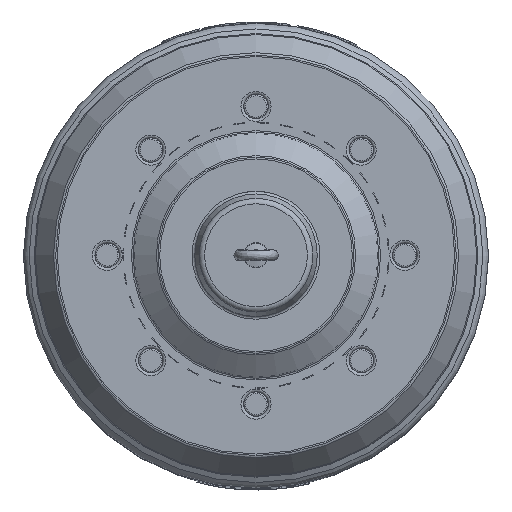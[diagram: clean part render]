
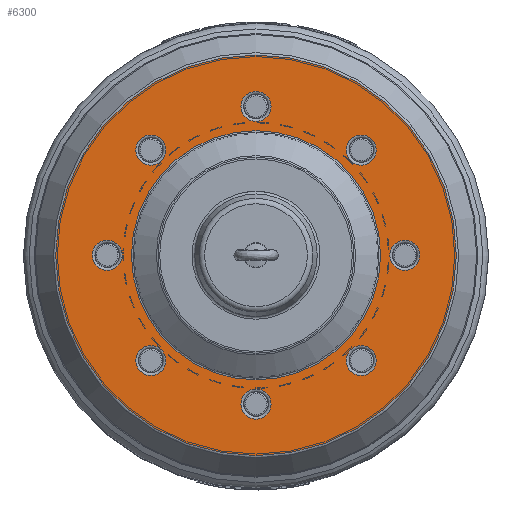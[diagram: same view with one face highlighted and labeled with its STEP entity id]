
A CAD part, top view. The second image highlights one B-rep face of the part: STEP entity #6300.
In plain terms, the highlighted planar face has unit normal (0, 0, 1).
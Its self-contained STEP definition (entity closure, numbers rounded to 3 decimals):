
#6300=ADVANCED_FACE('',(#24453,#24455,#24457,#24459,#24461,#24463,#24465,#24467,
#24469,#24471),#24473,.T.);
#24453=FACE_BOUND('',#24454,.T.);
#24454=EDGE_LOOP('',(#95872));
#24455=FACE_BOUND('',#24456,.T.);
#24456=EDGE_LOOP('',(#95873));
#24457=FACE_BOUND('',#24458,.T.);
#24458=EDGE_LOOP('',(#95874));
#24459=FACE_BOUND('',#24460,.T.);
#24460=EDGE_LOOP('',(#95875));
#24461=FACE_BOUND('',#24462,.T.);
#24462=EDGE_LOOP('',(#95876));
#24463=FACE_BOUND('',#24464,.T.);
#24464=EDGE_LOOP('',(#95877));
#24465=FACE_BOUND('',#24466,.T.);
#24466=EDGE_LOOP('',(#95878));
#24467=FACE_BOUND('',#24468,.T.);
#24468=EDGE_LOOP('',(#95879));
#24469=FACE_BOUND('',#24470,.T.);
#24470=EDGE_LOOP('',(#95880));
#24471=FACE_BOUND('',#24472,.T.);
#24472=EDGE_LOOP('',(#95881));
#24473=PLANE('',#24474);
#24474=AXIS2_PLACEMENT_3D('',#24475,#24476,#24477);
#24475=CARTESIAN_POINT('',(0.,0.,50.));
#24476=DIRECTION('',(0.,0.,1.));
#24477=DIRECTION('',(-1.,0.,0.));
#95872=ORIENTED_EDGE('',*,*,#101969,.F.);
#95873=ORIENTED_EDGE('',*,*,#101970,.F.);
#95874=ORIENTED_EDGE('',*,*,#101971,.F.);
#95875=ORIENTED_EDGE('',*,*,#101972,.F.);
#95876=ORIENTED_EDGE('',*,*,#101973,.F.);
#95877=ORIENTED_EDGE('',*,*,#101967,.T.);
#95878=ORIENTED_EDGE('',*,*,#101974,.F.);
#95879=ORIENTED_EDGE('',*,*,#101975,.F.);
#95880=ORIENTED_EDGE('',*,*,#101976,.F.);
#95881=ORIENTED_EDGE('',*,*,#101977,.F.);
#101967=EDGE_CURVE('',#107828,#107828,#107829,.T.);
#101969=EDGE_CURVE('',#107832,#107832,#107833,.T.);
#101970=EDGE_CURVE('',#107834,#107834,#107835,.F.);
#101971=EDGE_CURVE('',#107836,#107836,#107837,.F.);
#101972=EDGE_CURVE('',#107838,#107838,#107839,.F.);
#101973=EDGE_CURVE('',#107840,#107840,#107841,.F.);
#101974=EDGE_CURVE('',#107842,#107842,#107843,.F.);
#101975=EDGE_CURVE('',#107844,#107844,#107845,.F.);
#101976=EDGE_CURVE('',#107846,#107846,#107847,.F.);
#101977=EDGE_CURVE('',#107848,#107848,#107849,.F.);
#107828=VERTEX_POINT('',#142240);
#107829=CIRCLE('',#142241,174.113);
#107832=VERTEX_POINT('',#142250);
#107833=CIRCLE('',#142251,279.909);
#107834=VERTEX_POINT('',#142255);
#107835=CIRCLE('',#142256,21.001);
#107836=VERTEX_POINT('',#142260);
#107837=CIRCLE('',#142261,21.001);
#107838=VERTEX_POINT('',#142265);
#107839=CIRCLE('',#142266,21.001);
#107840=VERTEX_POINT('',#142270);
#107841=CIRCLE('',#142271,21.001);
#107842=VERTEX_POINT('',#142275);
#107843=CIRCLE('',#142276,21.001);
#107844=VERTEX_POINT('',#142280);
#107845=CIRCLE('',#142281,21.001);
#107846=VERTEX_POINT('',#142285);
#107847=CIRCLE('',#142286,21.001);
#107848=VERTEX_POINT('',#142290);
#107849=CIRCLE('',#142291,21.001);
#142240=CARTESIAN_POINT('',(-174.113,0.,50.));
#142241=AXIS2_PLACEMENT_3D('',#142242,#142243,#142244);
#142242=CARTESIAN_POINT('',(0.,0.,50.));
#142243=DIRECTION('',(0.,0.,-1.));
#142244=DIRECTION('',(-1.,0.,0.));
#142250=CARTESIAN_POINT('',(-279.909,0.,50.));
#142251=AXIS2_PLACEMENT_3D('',#142252,#142253,#142254);
#142252=CARTESIAN_POINT('',(0.,0.,50.));
#142253=DIRECTION('',(0.,0.,-1.));
#142254=DIRECTION('',(-1.,0.,0.));
#142255=CARTESIAN_POINT('',(-229.001,0.,50.));
#142256=AXIS2_PLACEMENT_3D('',#142257,#142258,#142259);
#142257=CARTESIAN_POINT('',(-208.,0.,50.));
#142258=DIRECTION('',(0.,0.,-1.));
#142259=DIRECTION('',(-1.,0.,0.));
#142260=CARTESIAN_POINT('',(-161.928,161.928,50.));
#142261=AXIS2_PLACEMENT_3D('',#142262,#142263,#142264);
#142262=CARTESIAN_POINT('',(-147.078,147.078,50.));
#142263=DIRECTION('',(0.,0.,-1.));
#142264=DIRECTION('',(-0.707,0.707,0.));
#142265=CARTESIAN_POINT('',(161.928,161.928,50.));
#142266=AXIS2_PLACEMENT_3D('',#142267,#142268,#142269);
#142267=CARTESIAN_POINT('',(147.078,147.078,50.));
#142268=DIRECTION('',(0.,0.,-1.));
#142269=DIRECTION('',(0.707,0.707,0.));
#142270=CARTESIAN_POINT('',(161.928,-161.928,50.));
#142271=AXIS2_PLACEMENT_3D('',#142272,#142273,#142274);
#142272=CARTESIAN_POINT('',(147.078,-147.078,50.));
#142273=DIRECTION('',(0.,0.,-1.));
#142274=DIRECTION('',(0.707,-0.707,0.));
#142275=CARTESIAN_POINT('',(0.,-229.001,50.));
#142276=AXIS2_PLACEMENT_3D('',#142277,#142278,#142279);
#142277=CARTESIAN_POINT('',(0.,-208.,50.));
#142278=DIRECTION('',(0.,0.,-1.));
#142279=DIRECTION('',(0.,-1.,0.));
#142280=CARTESIAN_POINT('',(229.001,0.,50.));
#142281=AXIS2_PLACEMENT_3D('',#142282,#142283,#142284);
#142282=CARTESIAN_POINT('',(208.,0.,50.));
#142283=DIRECTION('',(0.,0.,-1.));
#142284=DIRECTION('',(1.,0.,0.));
#142285=CARTESIAN_POINT('',(0.,229.001,50.));
#142286=AXIS2_PLACEMENT_3D('',#142287,#142288,#142289);
#142287=CARTESIAN_POINT('',(0.,208.,50.));
#142288=DIRECTION('',(0.,0.,-1.));
#142289=DIRECTION('',(0.,1.,0.));
#142290=CARTESIAN_POINT('',(-161.928,-161.928,50.));
#142291=AXIS2_PLACEMENT_3D('',#142292,#142293,#142294);
#142292=CARTESIAN_POINT('',(-147.078,-147.078,50.));
#142293=DIRECTION('',(0.,0.,-1.));
#142294=DIRECTION('',(-0.707,-0.707,0.));
